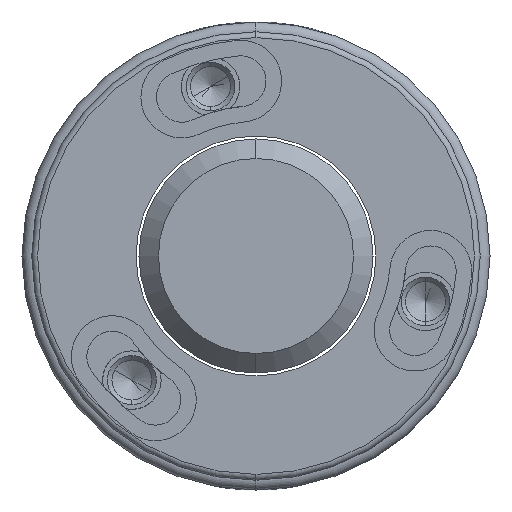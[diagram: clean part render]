
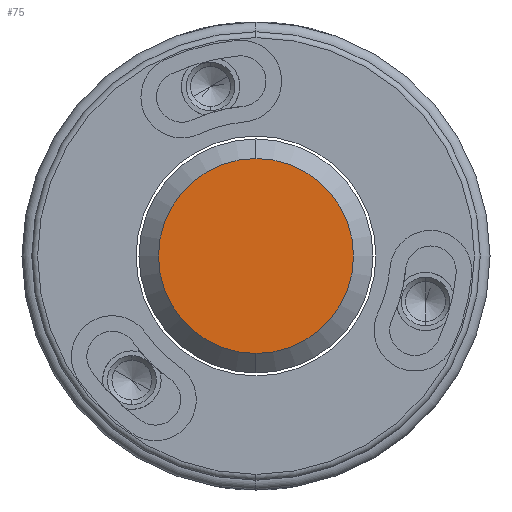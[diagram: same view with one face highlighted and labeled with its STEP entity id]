
A CAD part, left-side view. The second image highlights one B-rep face of the part: STEP entity #75.
In plain terms, the highlighted planar face has unit normal (-1, 0, 0).
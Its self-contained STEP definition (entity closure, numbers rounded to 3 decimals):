
#75 = ADVANCED_FACE ( 'NONE', ( #5175 ), #5751, .T. ) ;
#226 = AXIS2_PLACEMENT_3D ( 'NONE', #2009, #2514, #675 ) ;
#340 = CIRCLE ( 'NONE', #1318, 5. ) ;
#412 = EDGE_CURVE ( 'NONE', #3584, #3254, #340, .T. ) ;
#475 = EDGE_CURVE ( 'NONE', #3254, #3584, #2038, .T. ) ;
#675 = DIRECTION ( 'NONE',  ( 0., 0., 1. ) ) ;
#742 = DIRECTION ( 'NONE',  ( 0., 0., 1. ) ) ;
#1049 = ORIENTED_EDGE ( 'NONE', *, *, #412, .T. ) ;
#1318 = AXIS2_PLACEMENT_3D ( 'NONE', #5126, #3357, #742 ) ;
#1498 = EDGE_LOOP ( 'NONE', ( #2713, #1049 ) ) ;
#1791 = CARTESIAN_POINT ( 'NONE',  ( -5., 0., 5. ) ) ;
#2009 = CARTESIAN_POINT ( 'NONE',  ( -5., 0., 0. ) ) ;
#2038 = CIRCLE ( 'NONE', #226, 5. ) ;
#2290 = CARTESIAN_POINT ( 'NONE',  ( -5., 0., -5. ) ) ;
#2514 = DIRECTION ( 'NONE',  ( -1., 0., 0. ) ) ;
#2657 = DIRECTION ( 'NONE',  ( -1., 0., 0. ) ) ;
#2713 = ORIENTED_EDGE ( 'NONE', *, *, #475, .T. ) ;
#3254 = VERTEX_POINT ( 'NONE', #2290 ) ;
#3357 = DIRECTION ( 'NONE',  ( -1., 0., 0. ) ) ;
#3510 = CARTESIAN_POINT ( 'NONE',  ( -5., 0., 0. ) ) ;
#3584 = VERTEX_POINT ( 'NONE', #1791 ) ;
#3968 = DIRECTION ( 'NONE',  ( 0., 0., 1. ) ) ;
#4974 = AXIS2_PLACEMENT_3D ( 'NONE', #3510, #2657, #3968 ) ;
#5126 = CARTESIAN_POINT ( 'NONE',  ( -5., 0., 0. ) ) ;
#5175 = FACE_OUTER_BOUND ( 'NONE', #1498, .T. ) ;
#5751 = PLANE ( 'NONE',  #4974 ) ;
